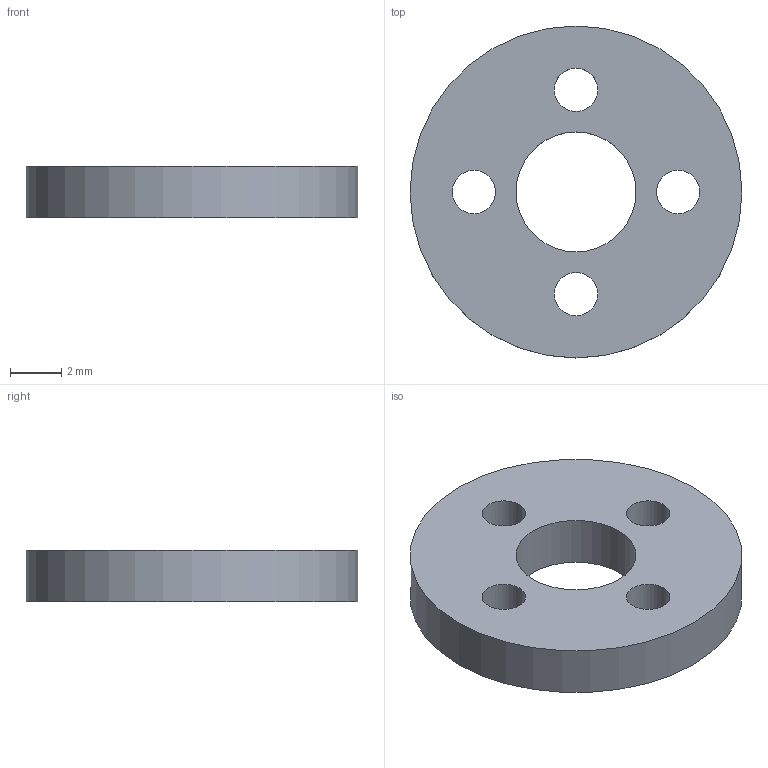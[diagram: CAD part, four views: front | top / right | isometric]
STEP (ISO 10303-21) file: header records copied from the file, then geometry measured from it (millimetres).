
FILE_DESCRIPTION(('Open CASCADE Model'),'2;1');
FILE_NAME('Open CASCADE Shape Model','2026-09-24T17:42:54',('Author'),( 'Open CASCADE'),'Open CASCADE STEP processor 7.8','Open CASCADE 7.8' ,'Unknown');
FILE_SCHEMA(('AUTOMOTIVE_DESIGN { 1 0 10303 214 1 1 1 1 }'));
Length unit declared in the file: millimetre
Products named in the file (1): Open CASCADE STEP translator 7.8 54
Bounding box: 13 x 13 x 2 mm (x, y, z)
Volume: 212.6 mm3; surface area: 366.5 mm2
Topology: 1 solids, 1 shells, 8 faces, 18 edges, 12 vertices
Faces by surface type: cylinder 6, plane 2
Full cylindrical faces by diameter (mm): 1.7 x4, 4.7 x1, 13 x1
Entity records: 498 total; most frequent: DIRECTION 84, CARTESIAN_POINT 75, ORIENTED_EDGE 36, PCURVE 36, DEFINITIONAL_REPRESENTATION 36, LINE 30, VECTOR 30, CIRCLE 24
